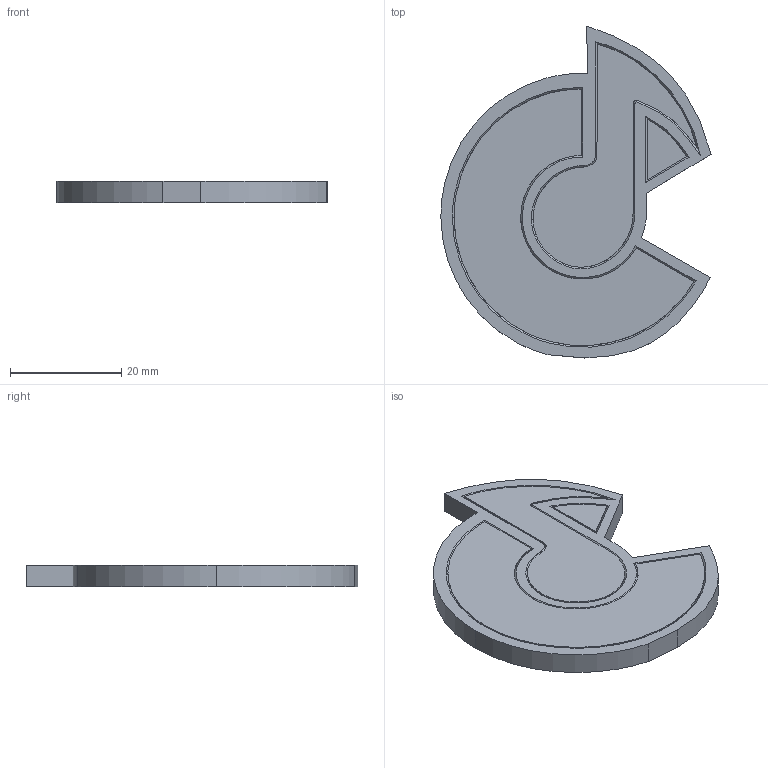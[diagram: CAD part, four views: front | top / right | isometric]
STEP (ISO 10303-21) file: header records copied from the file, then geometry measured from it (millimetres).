
FILE_DESCRIPTION(/* description */ (''),/* implementation_level */ '2;1');
FILE_NAME(/* name */ 'CantabileLogo.step',/* time_stamp */ '2026-05-18T10:53:47+10:00',/* author */ (''),/* organization */ (''),/* preprocessor_version */ 'ST-DEVELOPER v20.1',/* originating_system */ 'Autodesk Translation Framework v15.8.0.0',/* authorisation */ '');
FILE_SCHEMA (('AUTOMOTIVE_DESIGN { 1 0 10303 214 3 1 1 }'));
Length unit declared in the file: millimetre
Products named in the file (1): CantabileLogo
Bounding box: 48.69 x 59.79 x 3.9 mm (x, y, z)
Volume: 7412.5 mm3; surface area: 8313.5 mm2
Topology: 4 solids, 4 shells, 138 faces, 328 edges, 204 vertices
Faces by surface type: bspline 94, plane 44
Entity records: 6060 total; most frequent: CARTESIAN_POINT 3561, ORIENTED_EDGE 656, EDGE_CURVE 328, DIRECTION 228, VERTEX_POINT 204, B_SPLINE_CURVE_WITH_KNOTS 164, EDGE_LOOP 144, FACE_OUTER_BOUND 138
